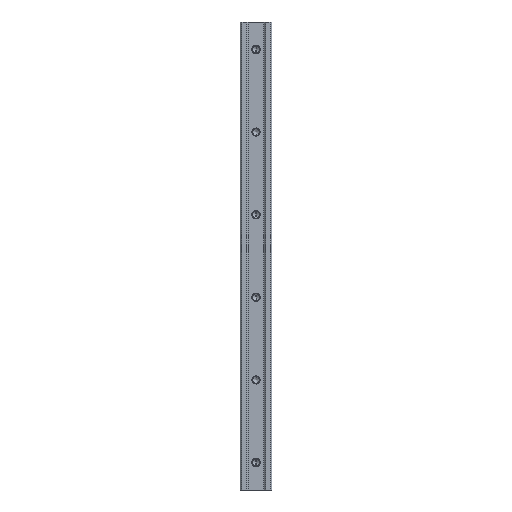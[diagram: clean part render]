
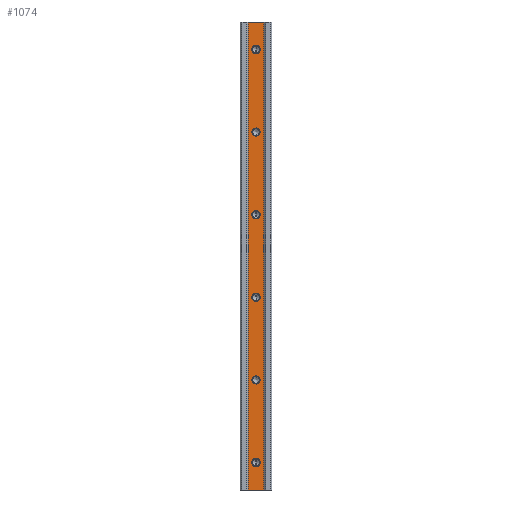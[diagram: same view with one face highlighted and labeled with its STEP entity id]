
A CAD part, front view. The second image highlights one B-rep face of the part: STEP entity #1074.
In plain terms, the highlighted planar face has unit normal (0, -1, 0).
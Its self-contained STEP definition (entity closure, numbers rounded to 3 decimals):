
#1 = CARTESIAN_POINT ( 'NONE',  ( 0., 1.25, 93. ) ) ;
#36 = VERTEX_POINT ( 'NONE', #1050 ) ;
#50 = CARTESIAN_POINT ( 'NONE',  ( 0., 1.25, -93. ) ) ;
#79 = LINE ( 'NONE', #684, #491 ) ;
#80 = EDGE_CURVE ( 'NONE', #524, #233, #658, .T. ) ;
#85 = CARTESIAN_POINT ( 'NONE',  ( 5.75, 1.25, -170. ) ) ;
#88 = CIRCLE ( 'NONE', #855, 3. ) ;
#93 = CARTESIAN_POINT ( 'NONE',  ( 0., 1.25, -147. ) ) ;
#95 = ORIENTED_EDGE ( 'NONE', *, *, #1446, .F. ) ;
#99 = DIRECTION ( 'NONE',  ( 0., 0., -1. ) ) ;
#110 = CIRCLE ( 'NONE', #1667, 3. ) ;
#114 = CIRCLE ( 'NONE', #865, 3. ) ;
#128 = ORIENTED_EDGE ( 'NONE', *, *, #936, .F. ) ;
#137 = CIRCLE ( 'NONE', #832, 3. ) ;
#146 = DIRECTION ( 'NONE',  ( 0., -1., 0. ) ) ;
#181 = VERTEX_POINT ( 'NONE', #1240 ) ;
#182 = DIRECTION ( 'NONE',  ( 0., -1., 0. ) ) ;
#193 = CARTESIAN_POINT ( 'NONE',  ( 5.75, 1.25, -170. ) ) ;
#201 = CIRCLE ( 'NONE', #525, 3. ) ;
#220 = EDGE_LOOP ( 'NONE', ( #1808, #1843 ) ) ;
#221 = EDGE_CURVE ( 'NONE', #318, #450, #392, .T. ) ;
#223 = DIRECTION ( 'NONE',  ( 0., -1., 0. ) ) ;
#227 = DIRECTION ( 'NONE',  ( 0., -1., 0. ) ) ;
#233 = VERTEX_POINT ( 'NONE', #945 ) ;
#239 = DIRECTION ( 'NONE',  ( 0., 0., -1. ) ) ;
#242 = CARTESIAN_POINT ( 'NONE',  ( 5.75, 1.25, 170. ) ) ;
#252 = ORIENTED_EDGE ( 'NONE', *, *, #221, .T. ) ;
#258 = EDGE_CURVE ( 'NONE', #318, #717, #79, .T. ) ;
#261 = VECTOR ( 'NONE', #924, 1000. ) ;
#262 = CARTESIAN_POINT ( 'NONE',  ( 0., 1.25, 30. ) ) ;
#280 = AXIS2_PLACEMENT_3D ( 'NONE', #967, #1109, #380 ) ;
#296 = EDGE_LOOP ( 'NONE', ( #1913, #1494 ) ) ;
#301 = VECTOR ( 'NONE', #1504, 1000. ) ;
#312 = DIRECTION ( 'NONE',  ( 0., -1., 0. ) ) ;
#318 = VERTEX_POINT ( 'NONE', #85 ) ;
#320 = PLANE ( 'NONE',  #1361 ) ;
#326 = EDGE_CURVE ( 'NONE', #1981, #790, #137, .T. ) ;
#380 = DIRECTION ( 'NONE',  ( 0., 0., -1. ) ) ;
#392 = LINE ( 'NONE', #193, #261 ) ;
#405 = FACE_OUTER_BOUND ( 'NONE', #1895, .T. ) ;
#409 = DIRECTION ( 'NONE',  ( 0., -1., 0. ) ) ;
#419 = CARTESIAN_POINT ( 'NONE',  ( -5.75, 1.25, 170. ) ) ;
#422 = LINE ( 'NONE', #435, #1414 ) ;
#435 = CARTESIAN_POINT ( 'NONE',  ( -5.75, 1.25, 170. ) ) ;
#450 = VERTEX_POINT ( 'NONE', #242 ) ;
#491 = VECTOR ( 'NONE', #1624, 1000. ) ;
#498 = ORIENTED_EDGE ( 'NONE', *, *, #1337, .F. ) ;
#510 = CARTESIAN_POINT ( 'NONE',  ( 0., 1.25, 27. ) ) ;
#524 = VERTEX_POINT ( 'NONE', #1691 ) ;
#525 = AXIS2_PLACEMENT_3D ( 'NONE', #1781, #1935, #239 ) ;
#534 = DIRECTION ( 'NONE',  ( 0., 0., -1. ) ) ;
#540 = DIRECTION ( 'NONE',  ( 0., -1., 0. ) ) ;
#549 = DIRECTION ( 'NONE',  ( 0., 0., -1. ) ) ;
#566 = DIRECTION ( 'NONE',  ( 0., -1., 0. ) ) ;
#610 = ORIENTED_EDGE ( 'NONE', *, *, #1219, .F. ) ;
#655 = DIRECTION ( 'NONE',  ( 0., -1., 0. ) ) ;
#658 = CIRCLE ( 'NONE', #737, 3. ) ;
#680 = ORIENTED_EDGE ( 'NONE', *, *, #1367, .T. ) ;
#684 = CARTESIAN_POINT ( 'NONE',  ( -5.75, 1.25, -170. ) ) ;
#695 = CARTESIAN_POINT ( 'NONE',  ( 0., 1.25, 33. ) ) ;
#717 = VERTEX_POINT ( 'NONE', #971 ) ;
#723 = CIRCLE ( 'NONE', #1315, 3. ) ;
#725 = ORIENTED_EDGE ( 'NONE', *, *, #258, .F. ) ;
#737 = AXIS2_PLACEMENT_3D ( 'NONE', #1377, #312, #1231 ) ;
#750 = FACE_BOUND ( 'NONE', #1318, .T. ) ;
#763 = EDGE_CURVE ( 'NONE', #36, #968, #723, .T. ) ;
#773 = DIRECTION ( 'NONE',  ( 0., -1., 0. ) ) ;
#790 = VERTEX_POINT ( 'NONE', #93 ) ;
#804 = ORIENTED_EDGE ( 'NONE', *, *, #854, .F. ) ;
#826 = CARTESIAN_POINT ( 'NONE',  ( 0., 1.25, -30. ) ) ;
#832 = AXIS2_PLACEMENT_3D ( 'NONE', #1135, #223, #1290 ) ;
#849 = VERTEX_POINT ( 'NONE', #419 ) ;
#854 = EDGE_CURVE ( 'NONE', #1167, #1886, #114, .T. ) ;
#855 = AXIS2_PLACEMENT_3D ( 'NONE', #1905, #655, #1900 ) ;
#865 = AXIS2_PLACEMENT_3D ( 'NONE', #262, #566, #549 ) ;
#924 = DIRECTION ( 'NONE',  ( 0., 0., 1. ) ) ;
#936 = EDGE_CURVE ( 'NONE', #233, #524, #1583, .T. ) ;
#945 = CARTESIAN_POINT ( 'NONE',  ( 0., 1.25, 147. ) ) ;
#946 = CARTESIAN_POINT ( 'NONE',  ( 0., 1.25, -90. ) ) ;
#957 = CIRCLE ( 'NONE', #958, 3. ) ;
#958 = AXIS2_PLACEMENT_3D ( 'NONE', #946, #182, #1127 ) ;
#967 = CARTESIAN_POINT ( 'NONE',  ( 0., 1.25, -150. ) ) ;
#968 = VERTEX_POINT ( 'NONE', #1824 ) ;
#971 = CARTESIAN_POINT ( 'NONE',  ( -5.75, 1.25, -170. ) ) ;
#994 = DIRECTION ( 'NONE',  ( 0., 0., -1. ) ) ;
#1012 = FACE_BOUND ( 'NONE', #220, .T. ) ;
#1016 = EDGE_CURVE ( 'NONE', #968, #36, #1466, .T. ) ;
#1023 = EDGE_LOOP ( 'NONE', ( #128, #1647 ) ) ;
#1047 = DIRECTION ( 'NONE',  ( 0., 0., -1. ) ) ;
#1050 = CARTESIAN_POINT ( 'NONE',  ( 0., 1.25, -27. ) ) ;
#1065 = AXIS2_PLACEMENT_3D ( 'NONE', #1620, #540, #534 ) ;
#1074 = ADVANCED_FACE ( 'NONE', ( #1012, #1634, #405, #1803, #1535, #750, #1112 ), #320, .F. ) ;
#1078 = AXIS2_PLACEMENT_3D ( 'NONE', #1499, #409, #99 ) ;
#1094 = DIRECTION ( 'NONE',  ( 0., 0., -1. ) ) ;
#1109 = DIRECTION ( 'NONE',  ( 0., -1., 0. ) ) ;
#1112 = FACE_BOUND ( 'NONE', #1190, .T. ) ;
#1127 = DIRECTION ( 'NONE',  ( 0., 0., -1. ) ) ;
#1135 = CARTESIAN_POINT ( 'NONE',  ( 0., 1.25, -150. ) ) ;
#1145 = VERTEX_POINT ( 'NONE', #1874 ) ;
#1167 = VERTEX_POINT ( 'NONE', #510 ) ;
#1174 = EDGE_CURVE ( 'NONE', #1145, #1514, #88, .T. ) ;
#1190 = EDGE_LOOP ( 'NONE', ( #1961, #1470 ) ) ;
#1197 = CARTESIAN_POINT ( 'NONE',  ( 0., 1.25, -30. ) ) ;
#1219 = EDGE_CURVE ( 'NONE', #1739, #181, #957, .T. ) ;
#1231 = DIRECTION ( 'NONE',  ( 0., 0., -1. ) ) ;
#1240 = CARTESIAN_POINT ( 'NONE',  ( 0., 1.25, -87. ) ) ;
#1290 = DIRECTION ( 'NONE',  ( 0., 0., -1. ) ) ;
#1292 = EDGE_CURVE ( 'NONE', #1886, #1167, #1331, .T. ) ;
#1315 = AXIS2_PLACEMENT_3D ( 'NONE', #826, #227, #994 ) ;
#1318 = EDGE_LOOP ( 'NONE', ( #610, #498 ) ) ;
#1331 = CIRCLE ( 'NONE', #1065, 3. ) ;
#1337 = EDGE_CURVE ( 'NONE', #181, #1739, #201, .T. ) ;
#1361 = AXIS2_PLACEMENT_3D ( 'NONE', #1699, #1385, #1880 ) ;
#1367 = EDGE_CURVE ( 'NONE', #450, #849, #422, .T. ) ;
#1377 = CARTESIAN_POINT ( 'NONE',  ( 0., 1.25, 150. ) ) ;
#1385 = DIRECTION ( 'NONE',  ( 0., 1., 0. ) ) ;
#1406 = AXIS2_PLACEMENT_3D ( 'NONE', #1197, #146, #1047 ) ;
#1414 = VECTOR ( 'NONE', #1831, 1000. ) ;
#1446 = EDGE_CURVE ( 'NONE', #717, #849, #1556, .T. ) ;
#1466 = CIRCLE ( 'NONE', #1406, 3. ) ;
#1470 = ORIENTED_EDGE ( 'NONE', *, *, #1814, .F. ) ;
#1494 = ORIENTED_EDGE ( 'NONE', *, *, #763, .F. ) ;
#1499 = CARTESIAN_POINT ( 'NONE',  ( 0., 1.25, 150. ) ) ;
#1504 = DIRECTION ( 'NONE',  ( 0., 0., 1. ) ) ;
#1514 = VERTEX_POINT ( 'NONE', #1 ) ;
#1535 = FACE_BOUND ( 'NONE', #296, .T. ) ;
#1556 = LINE ( 'NONE', #1817, #301 ) ;
#1583 = CIRCLE ( 'NONE', #1078, 3. ) ;
#1620 = CARTESIAN_POINT ( 'NONE',  ( 0., 1.25, 30. ) ) ;
#1624 = DIRECTION ( 'NONE',  ( -1., 0., 0. ) ) ;
#1634 = FACE_BOUND ( 'NONE', #1023, .T. ) ;
#1647 = ORIENTED_EDGE ( 'NONE', *, *, #80, .F. ) ;
#1648 = EDGE_LOOP ( 'NONE', ( #804, #1693 ) ) ;
#1667 = AXIS2_PLACEMENT_3D ( 'NONE', #1731, #773, #1094 ) ;
#1671 = EDGE_CURVE ( 'NONE', #1514, #1145, #110, .T. ) ;
#1691 = CARTESIAN_POINT ( 'NONE',  ( 0., 1.25, 153. ) ) ;
#1693 = ORIENTED_EDGE ( 'NONE', *, *, #1292, .F. ) ;
#1699 = CARTESIAN_POINT ( 'NONE',  ( -5.75, 1.25, -170. ) ) ;
#1731 = CARTESIAN_POINT ( 'NONE',  ( 0., 1.25, 90. ) ) ;
#1739 = VERTEX_POINT ( 'NONE', #50 ) ;
#1781 = CARTESIAN_POINT ( 'NONE',  ( 0., 1.25, -90. ) ) ;
#1803 = FACE_BOUND ( 'NONE', #1648, .T. ) ;
#1808 = ORIENTED_EDGE ( 'NONE', *, *, #1174, .F. ) ;
#1814 = EDGE_CURVE ( 'NONE', #790, #1981, #1997, .T. ) ;
#1817 = CARTESIAN_POINT ( 'NONE',  ( -5.75, 1.25, -170. ) ) ;
#1824 = CARTESIAN_POINT ( 'NONE',  ( 0., 1.25, -33. ) ) ;
#1831 = DIRECTION ( 'NONE',  ( -1., 0., 0. ) ) ;
#1843 = ORIENTED_EDGE ( 'NONE', *, *, #1671, .F. ) ;
#1874 = CARTESIAN_POINT ( 'NONE',  ( 0., 1.25, 87. ) ) ;
#1880 = DIRECTION ( 'NONE',  ( 0., 0., 1. ) ) ;
#1886 = VERTEX_POINT ( 'NONE', #695 ) ;
#1895 = EDGE_LOOP ( 'NONE', ( #680, #95, #725, #252 ) ) ;
#1900 = DIRECTION ( 'NONE',  ( 0., 0., -1. ) ) ;
#1905 = CARTESIAN_POINT ( 'NONE',  ( 0., 1.25, 90. ) ) ;
#1913 = ORIENTED_EDGE ( 'NONE', *, *, #1016, .F. ) ;
#1935 = DIRECTION ( 'NONE',  ( 0., -1., 0. ) ) ;
#1961 = ORIENTED_EDGE ( 'NONE', *, *, #326, .F. ) ;
#1964 = CARTESIAN_POINT ( 'NONE',  ( 0., 1.25, -153. ) ) ;
#1981 = VERTEX_POINT ( 'NONE', #1964 ) ;
#1997 = CIRCLE ( 'NONE', #280, 3. ) ;
